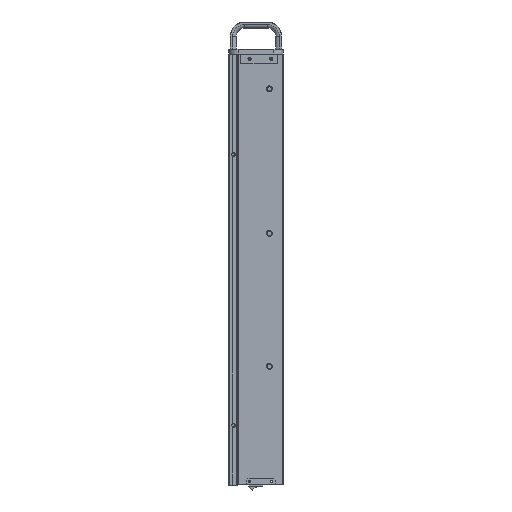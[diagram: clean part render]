
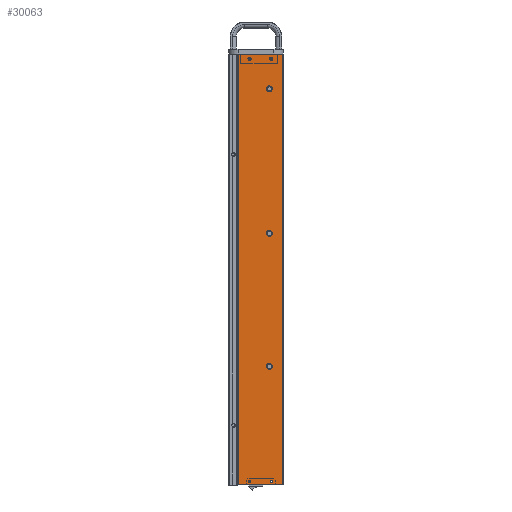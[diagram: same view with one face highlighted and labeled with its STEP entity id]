
A CAD part, left-side view. The second image highlights one B-rep face of the part: STEP entity #30063.
In plain terms, the highlighted planar face has unit normal (-1, 0, 0).
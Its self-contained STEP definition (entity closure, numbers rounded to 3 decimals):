
#12698=DIRECTION('',(0.,1.,0.));
#12699=VECTOR('',#12698,73.5);
#12700=CARTESIAN_POINT('',(-219.,0.,-700.));
#12701=LINE('',#12700,#12699);
#12705=DIRECTION('',(0.,1.,0.));
#12706=VECTOR('',#12705,73.5);
#12707=CARTESIAN_POINT('',(-219.,0.,0.));
#12708=LINE('',#12707,#12706);
#12712=DIRECTION('',(0.,0.,-1.));
#12713=VECTOR('',#12712,700.);
#12714=CARTESIAN_POINT('',(-219.,0.,0.));
#12715=LINE('',#12714,#12713);
#12719=CARTESIAN_POINT('',(-219.,19.,-694.5));
#12720=DIRECTION('',(1.,0.,0.));
#12721=DIRECTION('',(0.,0.,-1.));
#12722=AXIS2_PLACEMENT_3D('',#12719,#12720,#12721);
#12727=CARTESIAN_POINT('',(-219.,19.,-694.5));
#12728=DIRECTION('',(1.,0.,0.));
#12729=DIRECTION('',(0.,0.,1.));
#12730=AXIS2_PLACEMENT_3D('',#12727,#12728,#12729);
#12735=CARTESIAN_POINT('',(-219.,54.,-694.5));
#12736=DIRECTION('',(1.,0.,0.));
#12737=DIRECTION('',(0.,0.,-1.));
#12738=AXIS2_PLACEMENT_3D('',#12735,#12736,#12737);
#12743=CARTESIAN_POINT('',(-219.,54.,-694.5));
#12744=DIRECTION('',(1.,0.,0.));
#12745=DIRECTION('',(0.,0.,1.));
#12746=AXIS2_PLACEMENT_3D('',#12743,#12744,#12745);
#12751=CARTESIAN_POINT('',(-219.,54.25,
-10.75));
#12752=CARTESIAN_POINT('',(-219.,54.625,
-10.75));
#12753=CARTESIAN_POINT('',(-219.,55.319,
-10.61));
#12754=CARTESIAN_POINT('',(-219.,56.282,
-9.967));
#12755=CARTESIAN_POINT('',(-219.,56.877,
-9.024));
#12756=CARTESIAN_POINT('',(-219.,57.064,
-7.987));
#12757=CARTESIAN_POINT('',(-219.,56.866,
-6.963));
#12758=CARTESIAN_POINT('',(-219.,56.303,
-6.061));
#12759=CARTESIAN_POINT('',(-219.,55.357,
-5.401));
#12760=CARTESIAN_POINT('',(-219.,54.642,
-5.25));
#12761=CARTESIAN_POINT('',(-219.,54.25,
-5.25));
#12766=CARTESIAN_POINT('',(-219.,54.25,
-5.25));
#12767=CARTESIAN_POINT('',(-219.,53.875,
-5.25));
#12768=CARTESIAN_POINT('',(-219.,53.181,
-5.39));
#12769=CARTESIAN_POINT('',(-219.,52.218,
-6.033));
#12770=CARTESIAN_POINT('',(-219.,51.623,
-6.976));
#12771=CARTESIAN_POINT('',(-219.,51.436,
-8.013));
#12772=CARTESIAN_POINT('',(-219.,51.634,
-9.037));
#12773=CARTESIAN_POINT('',(-219.,52.197,
-9.939));
#12774=CARTESIAN_POINT('',(-219.,53.143,
-10.599));
#12775=CARTESIAN_POINT('',(-219.,53.858,
-10.75));
#12776=CARTESIAN_POINT('',(-219.,54.25,
-10.75));
#12781=CARTESIAN_POINT('',(-219.,19.25,
-10.75));
#12782=CARTESIAN_POINT('',(-219.,19.625,
-10.75));
#12783=CARTESIAN_POINT('',(-219.,20.319,
-10.61));
#12784=CARTESIAN_POINT('',(-219.,21.282,
-9.967));
#12785=CARTESIAN_POINT('',(-219.,21.877,
-9.024));
#12786=CARTESIAN_POINT('',(-219.,22.064,
-7.987));
#12787=CARTESIAN_POINT('',(-219.,21.866,
-6.963));
#12788=CARTESIAN_POINT('',(-219.,21.303,
-6.061));
#12789=CARTESIAN_POINT('',(-219.,20.357,
-5.401));
#12790=CARTESIAN_POINT('',(-219.,19.642,
-5.25));
#12791=CARTESIAN_POINT('',(-219.,19.25,
-5.25));
#12796=CARTESIAN_POINT('',(-219.,19.25,
-5.25));
#12797=CARTESIAN_POINT('',(-219.,18.875,
-5.25));
#12798=CARTESIAN_POINT('',(-219.,18.181,
-5.39));
#12799=CARTESIAN_POINT('',(-219.,17.218,
-6.033));
#12800=CARTESIAN_POINT('',(-219.,16.623,
-6.976));
#12801=CARTESIAN_POINT('',(-219.,16.436,
-8.013));
#12802=CARTESIAN_POINT('',(-219.,16.634,
-9.037));
#12803=CARTESIAN_POINT('',(-219.,17.197,
-9.939));
#12804=CARTESIAN_POINT('',(-219.,18.143,
-10.599));
#12805=CARTESIAN_POINT('',(-219.,18.858,
-10.75));
#12806=CARTESIAN_POINT('',(-219.,19.25,
-10.75));
#12811=CARTESIAN_POINT('',(-219.,22.185,-56.5));
#12812=DIRECTION('',(1.,0.,0.));
#12813=DIRECTION('',(0.,0.,-1.));
#12814=AXIS2_PLACEMENT_3D('',#12811,#12812,#12813);
#12819=CARTESIAN_POINT('',(-219.,22.185,-56.5));
#12820=DIRECTION('',(1.,0.,0.));
#12821=DIRECTION('',(0.,0.,1.));
#12822=AXIS2_PLACEMENT_3D('',#12819,#12820,#12821);
#12827=CARTESIAN_POINT('',(-219.,22.185,-291.325));
#12828=DIRECTION('',(1.,0.,0.));
#12829=DIRECTION('',(0.,0.,-1.));
#12830=AXIS2_PLACEMENT_3D('',#12827,#12828,#12829);
#12835=CARTESIAN_POINT('',(-219.,22.185,-291.325));
#12836=DIRECTION('',(1.,0.,0.));
#12837=DIRECTION('',(0.,0.,1.));
#12838=AXIS2_PLACEMENT_3D('',#12835,#12836,#12837);
#12843=CARTESIAN_POINT('',(-219.,22.185,-507.341));
#12844=DIRECTION('',(1.,0.,0.));
#12845=DIRECTION('',(0.,0.,-1.));
#12846=AXIS2_PLACEMENT_3D('',#12843,#12844,#12845);
#12851=CARTESIAN_POINT('',(-219.,22.185,-507.341));
#12852=DIRECTION('',(1.,0.,0.));
#12853=DIRECTION('',(0.,0.,1.));
#12854=AXIS2_PLACEMENT_3D('',#12851,#12852,#12853);
#12866=DIRECTION('',(0.,0.,-1.));
#12867=VECTOR('',#12866,700.);
#12868=CARTESIAN_POINT('',(-219.,73.5,0.));
#12869=LINE('',#12868,#12867);
#20564=CARTESIAN_POINT('',(-219.,0.,0.));
#20566=VERTEX_POINT('',#20564);
#20572=CARTESIAN_POINT('',(-219.,73.5,0.));
#20573=VERTEX_POINT('',#20572);
#20856=CARTESIAN_POINT('',(-219.,0.,-700.));
#20857=CARTESIAN_POINT('',(-219.,73.5,-700.));
#20858=VERTEX_POINT('',#20856);
#20859=VERTEX_POINT('',#20857);
#20994=CARTESIAN_POINT('',(-219.,19.,-696.25));
#20995=CARTESIAN_POINT('',(-219.,19.,-692.75));
#20996=VERTEX_POINT('',#20994);
#20997=VERTEX_POINT('',#20995);
#20998=CARTESIAN_POINT('',(-219.,54.,-696.25));
#20999=CARTESIAN_POINT('',(-219.,54.,-692.75));
#21000=VERTEX_POINT('',#20998);
#21001=VERTEX_POINT('',#20999);
#21256=VERTEX_POINT('',#12751);
#21257=VERTEX_POINT('',#12761);
#21262=VERTEX_POINT('',#12781);
#21263=VERTEX_POINT('',#12791);
#23466=CARTESIAN_POINT('',(-219.,22.185,-60.));
#23467=CARTESIAN_POINT('',(-219.,22.185,-53.));
#23468=VERTEX_POINT('',#23466);
#23469=VERTEX_POINT('',#23467);
#23470=CARTESIAN_POINT('',(-219.,22.185,-294.825));
#23471=CARTESIAN_POINT('',(-219.,22.185,-287.825));
#23472=VERTEX_POINT('',#23470);
#23473=VERTEX_POINT('',#23471);
#23474=CARTESIAN_POINT('',(-219.,22.185,-510.841));
#23475=CARTESIAN_POINT('',(-219.,22.185,-503.841));
#23476=VERTEX_POINT('',#23474);
#23477=VERTEX_POINT('',#23475);
#30010=CARTESIAN_POINT('',(-219.,0.,-700.));
#30011=DIRECTION('',(-1.,0.,0.));
#30012=DIRECTION('',(0.,0.,1.));
#30013=AXIS2_PLACEMENT_3D('',#30010,#30011,#30012);
#30014=PLANE('',#30013);
#30015=ORIENTED_EDGE('',*,*,#27175,.T.);
#30017=ORIENTED_EDGE('',*,*,#30016,.F.);
#30018=ORIENTED_EDGE('',*,*,#29578,.F.);
#30019=ORIENTED_EDGE('',*,*,#24353,.T.);
#30020=EDGE_LOOP('',(#30015,#30017,#30018,#30019));
#30021=FACE_OUTER_BOUND('',#30020,.F.);
#30022=ORIENTED_EDGE('',*,*,#29985,.F.);
#30024=ORIENTED_EDGE('',*,*,#30023,.F.);
#30025=EDGE_LOOP('',(#30022,#30024));
#30026=FACE_BOUND('',#30025,.F.);
#30028=ORIENTED_EDGE('',*,*,#30027,.F.);
#30030=ORIENTED_EDGE('',*,*,#30029,.F.);
#30031=EDGE_LOOP('',(#30028,#30030));
#30032=FACE_BOUND('',#30031,.F.);
#30034=ORIENTED_EDGE('',*,*,#30033,.F.);
#30036=ORIENTED_EDGE('',*,*,#30035,.F.);
#30037=EDGE_LOOP('',(#30034,#30036));
#30038=FACE_BOUND('',#30037,.F.);
#30040=ORIENTED_EDGE('',*,*,#30039,.F.);
#30042=ORIENTED_EDGE('',*,*,#30041,.F.);
#30043=EDGE_LOOP('',(#30040,#30042));
#30044=FACE_BOUND('',#30043,.F.);
#30046=ORIENTED_EDGE('',*,*,#30045,.F.);
#30048=ORIENTED_EDGE('',*,*,#30047,.F.);
#30049=EDGE_LOOP('',(#30046,#30048));
#30050=FACE_BOUND('',#30049,.F.);
#30052=ORIENTED_EDGE('',*,*,#30051,.F.);
#30054=ORIENTED_EDGE('',*,*,#30053,.F.);
#30055=EDGE_LOOP('',(#30052,#30054));
#30056=FACE_BOUND('',#30055,.F.);
#30058=ORIENTED_EDGE('',*,*,#30057,.F.);
#30060=ORIENTED_EDGE('',*,*,#30059,.F.);
#30061=EDGE_LOOP('',(#30058,#30060));
#30062=FACE_BOUND('',#30061,.F.);
#30063=ADVANCED_FACE('',(#30021,#30026,#30032,#30038,#30044,#30050,#30056,
#30062),#30014,.T.);
#12723=CIRCLE('',#12722,1.75);
#12731=CIRCLE('',#12730,1.75);
#12739=CIRCLE('',#12738,1.75);
#12747=CIRCLE('',#12746,1.75);
#12762=B_SPLINE_CURVE_WITH_KNOTS('',3,(#12751,#12752,#12753,#12754,#12755,
#12756,#12757,#12758,#12759,#12760,#12761),.UNSPECIFIED.,.F.,.F.,(4,1,1,1,1,1,1,
1,4),(0.,0.125,0.25,0.375,0.5,0.625,0.75,0.875,1.),
.UNSPECIFIED.);
#12777=B_SPLINE_CURVE_WITH_KNOTS('',3,(#12766,#12767,#12768,#12769,#12770,
#12771,#12772,#12773,#12774,#12775,#12776),.UNSPECIFIED.,.F.,.F.,(4,1,1,1,1,1,1,
1,4),(0.,0.125,0.25,0.375,0.5,0.625,0.75,0.875,1.),
.UNSPECIFIED.);
#12792=B_SPLINE_CURVE_WITH_KNOTS('',3,(#12781,#12782,#12783,#12784,#12785,
#12786,#12787,#12788,#12789,#12790,#12791),.UNSPECIFIED.,.F.,.F.,(4,1,1,1,1,1,1,
1,4),(0.,0.125,0.25,0.375,0.5,0.625,0.75,0.875,1.),
.UNSPECIFIED.);
#12807=B_SPLINE_CURVE_WITH_KNOTS('',3,(#12796,#12797,#12798,#12799,#12800,
#12801,#12802,#12803,#12804,#12805,#12806),.UNSPECIFIED.,.F.,.F.,(4,1,1,1,1,1,1,
1,4),(0.,0.125,0.25,0.375,0.5,0.625,0.75,0.875,1.),
.UNSPECIFIED.);
#12815=CIRCLE('',#12814,3.5);
#12823=CIRCLE('',#12822,3.5);
#12831=CIRCLE('',#12830,3.5);
#12839=CIRCLE('',#12838,3.5);
#12847=CIRCLE('',#12846,3.5);
#12855=CIRCLE('',#12854,3.5);
#24353=EDGE_CURVE('',#20566,#20858,#12715,.T.);
#27175=EDGE_CURVE('',#20858,#20859,#12701,.T.);
#29578=EDGE_CURVE('',#20566,#20573,#12708,.T.);
#29985=EDGE_CURVE('',#20996,#20997,#12723,.T.);
#30016=EDGE_CURVE('',#20573,#20859,#12869,.T.);
#30023=EDGE_CURVE('',#20997,#20996,#12731,.T.);
#30027=EDGE_CURVE('',#21000,#21001,#12739,.T.);
#30029=EDGE_CURVE('',#21001,#21000,#12747,.T.);
#30033=EDGE_CURVE('',#21256,#21257,#12762,.T.);
#30035=EDGE_CURVE('',#21257,#21256,#12777,.T.);
#30039=EDGE_CURVE('',#21262,#21263,#12792,.T.);
#30041=EDGE_CURVE('',#21263,#21262,#12807,.T.);
#30045=EDGE_CURVE('',#23468,#23469,#12815,.T.);
#30047=EDGE_CURVE('',#23469,#23468,#12823,.T.);
#30051=EDGE_CURVE('',#23472,#23473,#12831,.T.);
#30053=EDGE_CURVE('',#23473,#23472,#12839,.T.);
#30057=EDGE_CURVE('',#23476,#23477,#12847,.T.);
#30059=EDGE_CURVE('',#23477,#23476,#12855,.T.);
